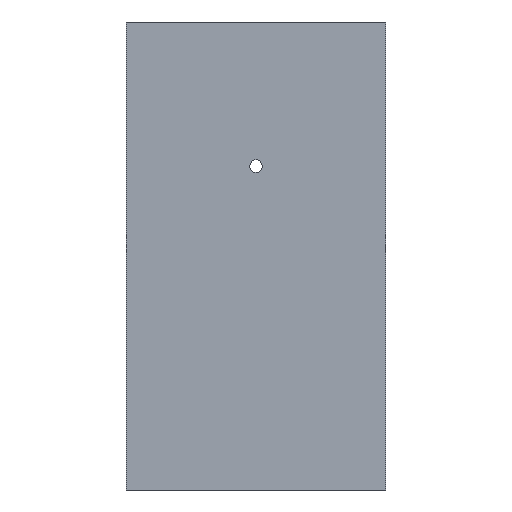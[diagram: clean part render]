
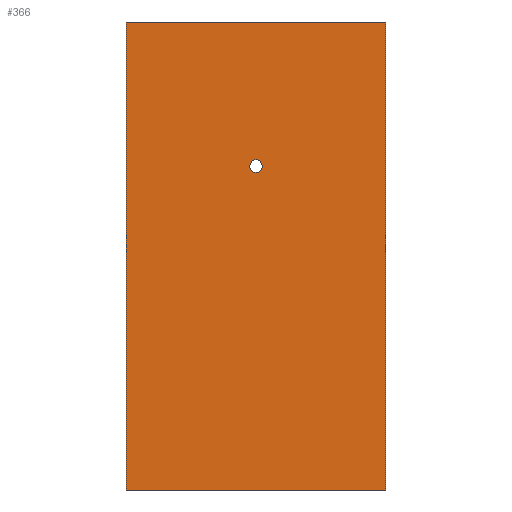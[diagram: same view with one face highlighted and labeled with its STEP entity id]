
A CAD part, left-side view. The second image highlights one B-rep face of the part: STEP entity #366.
In plain terms, the highlighted planar face has unit normal (-1, 0, 0).
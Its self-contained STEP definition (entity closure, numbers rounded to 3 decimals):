
#22 = VERTEX_POINT('',#23);
#23 = CARTESIAN_POINT('',(0.,0.,0.));
#32 = PLANE('',#33);
#33 = AXIS2_PLACEMENT_3D('',#34,#35,#36);
#34 = CARTESIAN_POINT('',(0.,0.,0.));
#35 = DIRECTION('',(0.,1.,0.));
#36 = DIRECTION('',(0.,0.,1.));
#44 = PLANE('',#45);
#45 = AXIS2_PLACEMENT_3D('',#46,#47,#48);
#46 = CARTESIAN_POINT('',(0.,0.,0.));
#47 = DIRECTION('',(0.,0.,1.));
#48 = DIRECTION('',(1.,0.,0.));
#56 = EDGE_CURVE('',#22,#57,#59,.T.);
#57 = VERTEX_POINT('',#58);
#58 = CARTESIAN_POINT('',(0.,0.,355.6));
#59 = SURFACE_CURVE('',#60,(#64,#71),.PCURVE_S1.);
#60 = LINE('',#61,#62);
#61 = CARTESIAN_POINT('',(0.,0.,0.));
#62 = VECTOR('',#63,1.);
#63 = DIRECTION('',(0.,0.,1.));
#64 = PCURVE('',#32,#65);
#65 = DEFINITIONAL_REPRESENTATION('',(#66),#70);
#66 = LINE('',#67,#68);
#67 = CARTESIAN_POINT('',(0.,0.));
#68 = VECTOR('',#69,1.);
#69 = DIRECTION('',(1.,0.));
#70 = ( GEOMETRIC_REPRESENTATION_CONTEXT(2) 
PARAMETRIC_REPRESENTATION_CONTEXT() REPRESENTATION_CONTEXT('2D SPACE',''
  ) );
#71 = PCURVE('',#72,#77);
#72 = PLANE('',#73);
#73 = AXIS2_PLACEMENT_3D('',#74,#75,#76);
#74 = CARTESIAN_POINT('',(0.,0.,0.));
#75 = DIRECTION('',(1.,0.,0.));
#76 = DIRECTION('',(0.,0.,1.));
#77 = DEFINITIONAL_REPRESENTATION('',(#78),#82);
#78 = LINE('',#79,#80);
#79 = CARTESIAN_POINT('',(0.,0.));
#80 = VECTOR('',#81,1.);
#81 = DIRECTION('',(1.,0.));
#82 = ( GEOMETRIC_REPRESENTATION_CONTEXT(2) 
PARAMETRIC_REPRESENTATION_CONTEXT() REPRESENTATION_CONTEXT('2D SPACE',''
  ) );
#100 = PLANE('',#101);
#101 = AXIS2_PLACEMENT_3D('',#102,#103,#104);
#102 = CARTESIAN_POINT('',(0.,0.,355.6));
#103 = DIRECTION('',(0.,0.,1.));
#104 = DIRECTION('',(1.,0.,0.));
#141 = EDGE_CURVE('',#22,#142,#144,.T.);
#142 = VERTEX_POINT('',#143);
#143 = CARTESIAN_POINT('',(0.,196.85,0.));
#144 = SURFACE_CURVE('',#145,(#149,#156),.PCURVE_S1.);
#145 = LINE('',#146,#147);
#146 = CARTESIAN_POINT('',(0.,0.,0.));
#147 = VECTOR('',#148,1.);
#148 = DIRECTION('',(0.,1.,0.));
#149 = PCURVE('',#44,#150);
#150 = DEFINITIONAL_REPRESENTATION('',(#151),#155);
#151 = LINE('',#152,#153);
#152 = CARTESIAN_POINT('',(0.,0.));
#153 = VECTOR('',#154,1.);
#154 = DIRECTION('',(0.,1.));
#155 = ( GEOMETRIC_REPRESENTATION_CONTEXT(2) 
PARAMETRIC_REPRESENTATION_CONTEXT() REPRESENTATION_CONTEXT('2D SPACE',''
  ) );
#156 = PCURVE('',#72,#157);
#157 = DEFINITIONAL_REPRESENTATION('',(#158),#162);
#158 = LINE('',#159,#160);
#159 = CARTESIAN_POINT('',(0.,0.));
#160 = VECTOR('',#161,1.);
#161 = DIRECTION('',(0.,-1.));
#162 = ( GEOMETRIC_REPRESENTATION_CONTEXT(2) 
PARAMETRIC_REPRESENTATION_CONTEXT() REPRESENTATION_CONTEXT('2D SPACE',''
  ) );
#202 = PLANE('',#203);
#203 = AXIS2_PLACEMENT_3D('',#204,#205,#206);
#204 = CARTESIAN_POINT('',(0.,196.85,0.));
#205 = DIRECTION('',(0.,1.,0.));
#206 = DIRECTION('',(0.,0.,1.));
#236 = CYLINDRICAL_SURFACE('',#237,4.76);
#237 = AXIS2_PLACEMENT_3D('',#238,#239,#240);
#238 = CARTESIAN_POINT('',(0.,98.42,246.063));
#239 = DIRECTION('',(1.,0.,0.));
#240 = DIRECTION('',(0.,0.,-1.));
#321 = EDGE_CURVE('',#57,#322,#324,.T.);
#322 = VERTEX_POINT('',#323);
#323 = CARTESIAN_POINT('',(0.,196.85,355.6));
#324 = SURFACE_CURVE('',#325,(#329,#336),.PCURVE_S1.);
#325 = LINE('',#326,#327);
#326 = CARTESIAN_POINT('',(0.,0.,355.6));
#327 = VECTOR('',#328,1.);
#328 = DIRECTION('',(0.,1.,0.));
#329 = PCURVE('',#100,#330);
#330 = DEFINITIONAL_REPRESENTATION('',(#331),#335);
#331 = LINE('',#332,#333);
#332 = CARTESIAN_POINT('',(0.,0.));
#333 = VECTOR('',#334,1.);
#334 = DIRECTION('',(0.,1.));
#335 = ( GEOMETRIC_REPRESENTATION_CONTEXT(2) 
PARAMETRIC_REPRESENTATION_CONTEXT() REPRESENTATION_CONTEXT('2D SPACE',''
  ) );
#336 = PCURVE('',#72,#337);
#337 = DEFINITIONAL_REPRESENTATION('',(#338),#342);
#338 = LINE('',#339,#340);
#339 = CARTESIAN_POINT('',(355.6,0.));
#340 = VECTOR('',#341,1.);
#341 = DIRECTION('',(0.,-1.));
#342 = ( GEOMETRIC_REPRESENTATION_CONTEXT(2) 
PARAMETRIC_REPRESENTATION_CONTEXT() REPRESENTATION_CONTEXT('2D SPACE',''
  ) );
#366 = ADVANCED_FACE('',(#367,#393),#72,.F.);
#367 = FACE_BOUND('',#368,.F.);
#368 = EDGE_LOOP('',(#369));
#369 = ORIENTED_EDGE('',*,*,#370,.F.);
#370 = EDGE_CURVE('',#371,#371,#373,.T.);
#371 = VERTEX_POINT('',#372);
#372 = CARTESIAN_POINT('',(0.,98.42,241.302));
#373 = SURFACE_CURVE('',#374,(#379,#386),.PCURVE_S1.);
#374 = CIRCLE('',#375,4.76);
#375 = AXIS2_PLACEMENT_3D('',#376,#377,#378);
#376 = CARTESIAN_POINT('',(0.,98.42,246.063));
#377 = DIRECTION('',(1.,0.,0.));
#378 = DIRECTION('',(0.,0.,-1.));
#379 = PCURVE('',#72,#380);
#380 = DEFINITIONAL_REPRESENTATION('',(#381),#385);
#381 = CIRCLE('',#382,4.76);
#382 = AXIS2_PLACEMENT_2D('',#383,#384);
#383 = CARTESIAN_POINT('',(246.063,-98.42));
#384 = DIRECTION('',(-1.,0.));
#385 = ( GEOMETRIC_REPRESENTATION_CONTEXT(2) 
PARAMETRIC_REPRESENTATION_CONTEXT() REPRESENTATION_CONTEXT('2D SPACE',''
  ) );
#386 = PCURVE('',#236,#387);
#387 = DEFINITIONAL_REPRESENTATION('',(#388),#392);
#388 = LINE('',#389,#390);
#389 = CARTESIAN_POINT('',(0.,0.));
#390 = VECTOR('',#391,1.);
#391 = DIRECTION('',(1.,0.));
#392 = ( GEOMETRIC_REPRESENTATION_CONTEXT(2) 
PARAMETRIC_REPRESENTATION_CONTEXT() REPRESENTATION_CONTEXT('2D SPACE',''
  ) );
#393 = FACE_BOUND('',#394,.F.);
#394 = EDGE_LOOP('',(#395,#396,#397,#418));
#395 = ORIENTED_EDGE('',*,*,#56,.F.);
#396 = ORIENTED_EDGE('',*,*,#141,.T.);
#397 = ORIENTED_EDGE('',*,*,#398,.T.);
#398 = EDGE_CURVE('',#142,#322,#399,.T.);
#399 = SURFACE_CURVE('',#400,(#404,#411),.PCURVE_S1.);
#400 = LINE('',#401,#402);
#401 = CARTESIAN_POINT('',(0.,196.85,0.));
#402 = VECTOR('',#403,1.);
#403 = DIRECTION('',(0.,0.,1.));
#404 = PCURVE('',#72,#405);
#405 = DEFINITIONAL_REPRESENTATION('',(#406),#410);
#406 = LINE('',#407,#408);
#407 = CARTESIAN_POINT('',(0.,-196.85));
#408 = VECTOR('',#409,1.);
#409 = DIRECTION('',(1.,0.));
#410 = ( GEOMETRIC_REPRESENTATION_CONTEXT(2) 
PARAMETRIC_REPRESENTATION_CONTEXT() REPRESENTATION_CONTEXT('2D SPACE',''
  ) );
#411 = PCURVE('',#202,#412);
#412 = DEFINITIONAL_REPRESENTATION('',(#413),#417);
#413 = LINE('',#414,#415);
#414 = CARTESIAN_POINT('',(0.,0.));
#415 = VECTOR('',#416,1.);
#416 = DIRECTION('',(1.,0.));
#417 = ( GEOMETRIC_REPRESENTATION_CONTEXT(2) 
PARAMETRIC_REPRESENTATION_CONTEXT() REPRESENTATION_CONTEXT('2D SPACE',''
  ) );
#418 = ORIENTED_EDGE('',*,*,#321,.F.);
